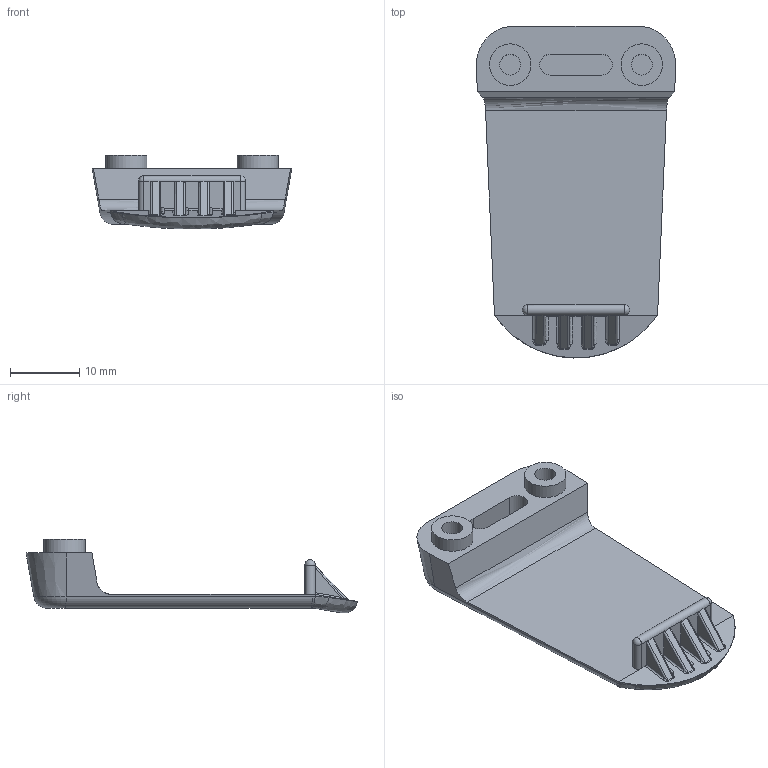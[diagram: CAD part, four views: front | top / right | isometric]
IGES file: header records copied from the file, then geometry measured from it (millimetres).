
Global section: file name: No Iges File Name specified; native system: Autodesk Inventor 2012; preprocessor: AutoDesk Inventor Iges Exporter R2012; author: lwalsh; date: 20111212.115201; units: millimetre
Bounding box: 28.81 x 47.93 x 10.67 mm (x, y, z)
Volume: 3638.6 mm3; surface area: 3412.3 mm2
Topology: 1 solids, 1 shells, 91 faces, 223 edges, 132 vertices
Faces by surface type: plane 34, revolution 21, cylinder 16, bspline 13, cone 3, sphere 2, torus 2
Full cylindrical faces by diameter (mm): 6 x2
